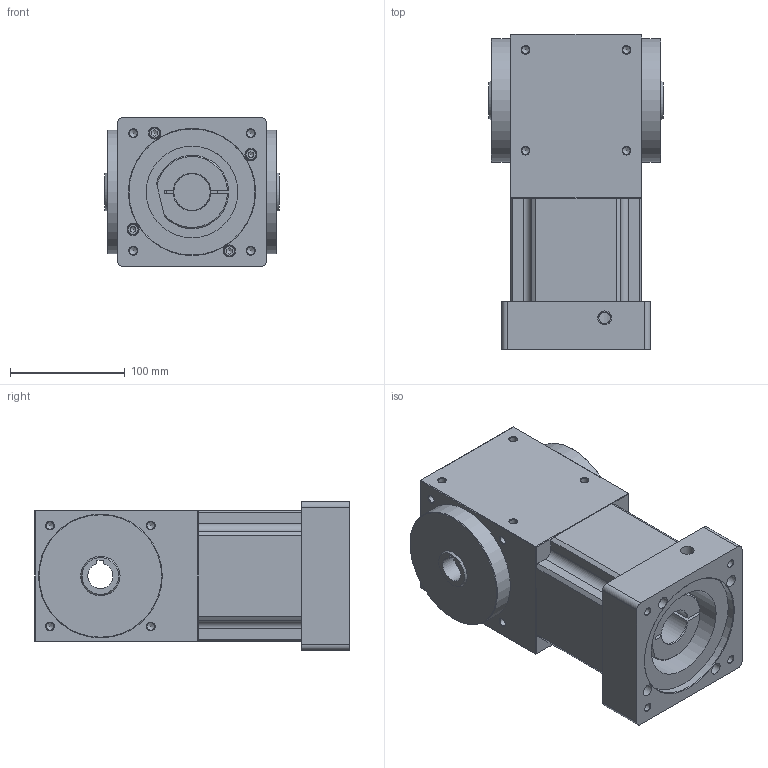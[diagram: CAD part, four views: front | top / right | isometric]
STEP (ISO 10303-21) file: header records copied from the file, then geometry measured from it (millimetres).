
FILE_DESCRIPTION((''),'2;1');
FILE_NAME('D:\유성\SBT 베벨기어박스\최종도면모음\3D\SBT115\SBT115PHS003~010H.stp','2014-05-20T15:53:20',('nagyu'),(''),'Autodesk Inventor 2013','Autodesk Inventor 2013','');
FILE_SCHEMA(('AUTOMOTIVE_DESIGN { 1 0 10303 214 1 1 1 1 }'));
Length unit declared in the file: millimetre
Products named in the file (1): SBT115PHS003~010H_Shrinkwrap_1
Bounding box: 152 x 275 x 130 mm (x, y, z)
Volume: 3671956 mm3; surface area: 224281.1 mm2
Topology: 1 solids, 5 shells, 284 faces, 748 edges, 465 vertices
Faces by surface type: plane 114, cylinder 95, cone 67, torus 8
Full cylindrical faces by diameter (mm): 6 x4, 6.6 x4, 6.647 x44, 8 x2, 10 x4, 10.2 x1, 10.5 x4, 12 x1, 32 x1, 45 x1, 80 x1, 108 x2, 110 x1
Entity records: 7545 total; most frequent: DIRECTION 1346, CARTESIAN_POINT 1328, ORIENTED_EDGE 1078, AXIS2_PLACEMENT_3D 559, EDGE_CURVE 539, EDGE_LOOP 452, VERTEX_POINT 395, FACE_OUTER_BOUND 284
